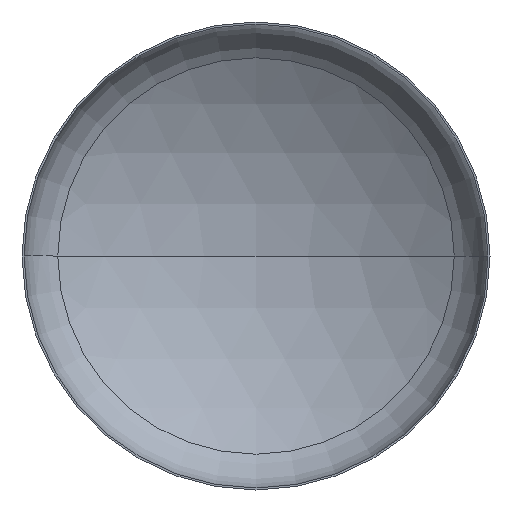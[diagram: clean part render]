
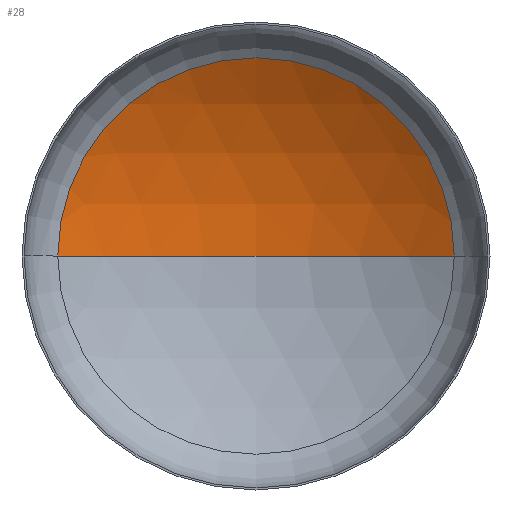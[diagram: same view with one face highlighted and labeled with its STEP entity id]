
A CAD part, front view. The second image highlights one B-rep face of the part: STEP entity #28.
In plain terms, the highlighted spherical face has radius 2400 mm.
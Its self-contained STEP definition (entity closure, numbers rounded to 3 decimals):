
#7 = CARTESIAN_POINT ( 'NONE',  ( 0., -1605.865, 0. ) ) ;
#9 = CARTESIAN_POINT ( 'NONE',  ( 0., -1605.865, 0. ) ) ;
#15 = EDGE_LOOP ( 'NONE', ( #92, #67, #24 ) ) ;
#24 = ORIENTED_EDGE ( 'NONE', *, *, #159, .T. ) ;
#28 = ADVANCED_FACE ( 'NONE', ( #189 ), #326, .F. ) ;
#38 = CIRCLE ( 'NONE', #229, 2400. ) ;
#63 = VERTEX_POINT ( 'NONE', #230 ) ;
#67 = ORIENTED_EDGE ( 'NONE', *, *, #201, .T. ) ;
#71 = VERTEX_POINT ( 'NONE', #273 ) ;
#92 = ORIENTED_EDGE ( 'NONE', *, *, #218, .F. ) ;
#94 = VERTEX_POINT ( 'NONE', #317 ) ;
#113 = AXIS2_PLACEMENT_3D ( 'NONE', #223, #274, #220 ) ;
#134 = DIRECTION ( 'NONE',  ( 0., 0., -1. ) ) ;
#152 = DIRECTION ( 'NONE',  ( 0., -1., 0. ) ) ;
#158 = CIRCLE ( 'NONE', #296, 2400. ) ;
#159 = EDGE_CURVE ( 'NONE', #94, #71, #309, .T. ) ;
#160 = DIRECTION ( 'NONE',  ( 1., 0., 0. ) ) ;
#167 = DIRECTION ( 'NONE',  ( 0., 0., 1. ) ) ;
#189 = FACE_OUTER_BOUND ( 'NONE', #15, .T. ) ;
#193 = AXIS2_PLACEMENT_3D ( 'NONE', #283, #152, #160 ) ;
#201 = EDGE_CURVE ( 'NONE', #63, #94, #38, .T. ) ;
#218 = EDGE_CURVE ( 'NONE', #63, #71, #158, .T. ) ;
#219 = DIRECTION ( 'NONE',  ( -1., 0., 0. ) ) ;
#220 = DIRECTION ( 'NONE',  ( -1., 0., 0. ) ) ;
#223 = CARTESIAN_POINT ( 'NONE',  ( 0., -1605.865, 0. ) ) ;
#229 = AXIS2_PLACEMENT_3D ( 'NONE', #7, #134, #219 ) ;
#230 = CARTESIAN_POINT ( 'NONE',  ( 0., 794.135, 0. ) ) ;
#273 = CARTESIAN_POINT ( 'NONE',  ( -1270.515, 430.257, 0. ) ) ;
#274 = DIRECTION ( 'NONE',  ( 0., 0., -1. ) ) ;
#283 = CARTESIAN_POINT ( 'NONE',  ( 0., 430.257, 0. ) ) ;
#296 = AXIS2_PLACEMENT_3D ( 'NONE', #9, #167, #357 ) ;
#309 = CIRCLE ( 'NONE', #193, 1270.515 ) ;
#317 = CARTESIAN_POINT ( 'NONE',  ( 1270.515, 430.257, 0. ) ) ;
#326 = SPHERICAL_SURFACE ( 'NONE', #113, 2400. ) ;
#357 = DIRECTION ( 'NONE',  ( 1., 0., 0. ) ) ;
